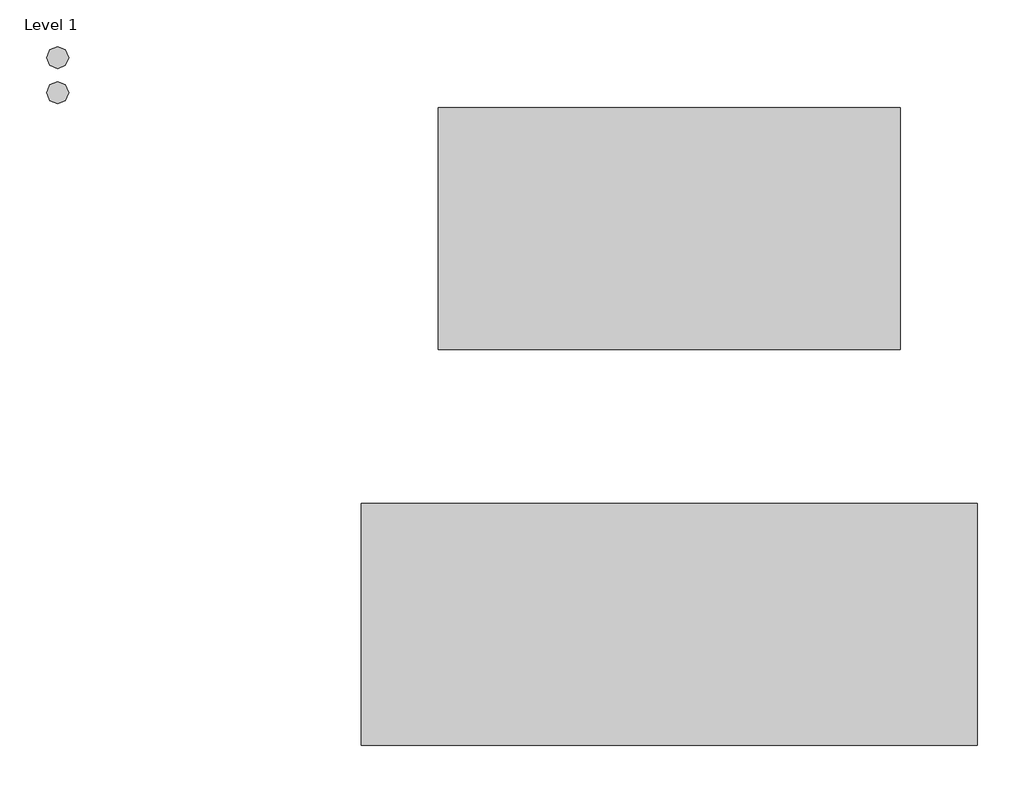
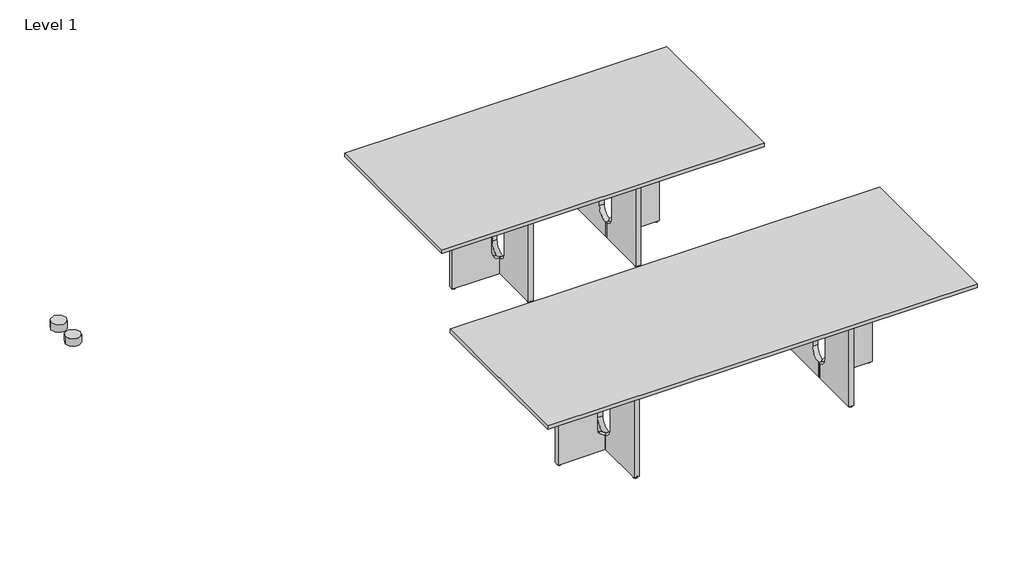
# One storey: 2 furniture elements, 2 proxies.
"""IFC4 building model written with IfcOpenShell, lengths in millimetres."""

from ifc_helpers import new_model, si_unit, origin, place, context, project, spatial, transform, mapped, element, save
from components import materialmodel_materialmodel_02e69005, furniture_8d591d6a, furniture_f7959ec2

model = new_model("IFC4")

# Units and contexts
model_context = context("Model", 3, world=origin())
ifc_project = project(units=[si_unit("LENGTHUNIT", "METRE", prefix="MILLI")], contexts=[model_context])

# Site, building, storey
site = spatial("IfcSite", under=ifc_project)
building = spatial("IfcBuilding", under=site)
storey = spatial("IfcBuildingStorey", under=building, Name="Level 1", Elevation=0.0)

# Proxies
placement = place(None, origin())
materialmodel_materialmodel_shape = materialmodel_materialmodel_02e69005(model_context)
element("IfcBuildingElementProxy", 1, Name="MaterialModel : MaterialModel", ObjectType="MaterialModel : MaterialModel", at=placement, inside=storey, context=model_context, shape_type="MappedRepresentation", body=[
    mapped(materialmodel_materialmodel_shape, transform((-5552.1657896, 4850.5072891, 0.0), x_axis=(1.0, 0.0, 0.0), y_axis=(0.0, 1.0, 0.0), z_axis=(0.0, 0.0, 1.0))),
])
element("IfcBuildingElementProxy", 2, Name="MaterialModel : MaterialModel", ObjectType="MaterialModel : MaterialModel", at=placement, inside=storey, context=model_context, shape_type="MappedRepresentation", body=[
    mapped(materialmodel_materialmodel_shape, transform((-5552.1657896, 4690.5072891, 0.0), x_axis=(1.0, 0.0, 0.0), y_axis=(0.0, 1.0, 0.0), z_axis=(0.0, 0.0, 1.0))),
])

# Furniture
furniture_shape = furniture_8d591d6a(model_context)
element("IfcFurniture", 3, ObjectType="Audo Copenhagen - Androgyne - Dining Table Rectangular - 210 : Audo Copenhagen - Androgyne - Dining Table Rectangular - 210", at=placement, inside=storey, context=model_context, shape_type="MappedRepresentation", body=[
    mapped(furniture_shape, transform((-2770.7585, 4072.8065798, 0.0), x_axis=(1.0, 0.0, 0.0), y_axis=(0.0, 1.0, 0.0), z_axis=(0.0, 0.0, 1.0))),
])
furniture_2_shape = furniture_f7959ec2(model_context)
element("IfcFurniture", 4, ObjectType="Audo Copenhagen - Androgyne - Dining Table Rectangular - 278 : Audo Copenhagen - Androgyne - Dining Table Rectangular - 278", at=placement, inside=storey, context=model_context, shape_type="MappedRepresentation", body=[
    mapped(furniture_2_shape, transform((-2770.7585, 2272.8065798, 0.0), x_axis=(1.0, 0.0, 0.0), y_axis=(0.0, 1.0, 0.0), z_axis=(0.0, 0.0, 1.0))),
])

save(model, "model.ifc")
